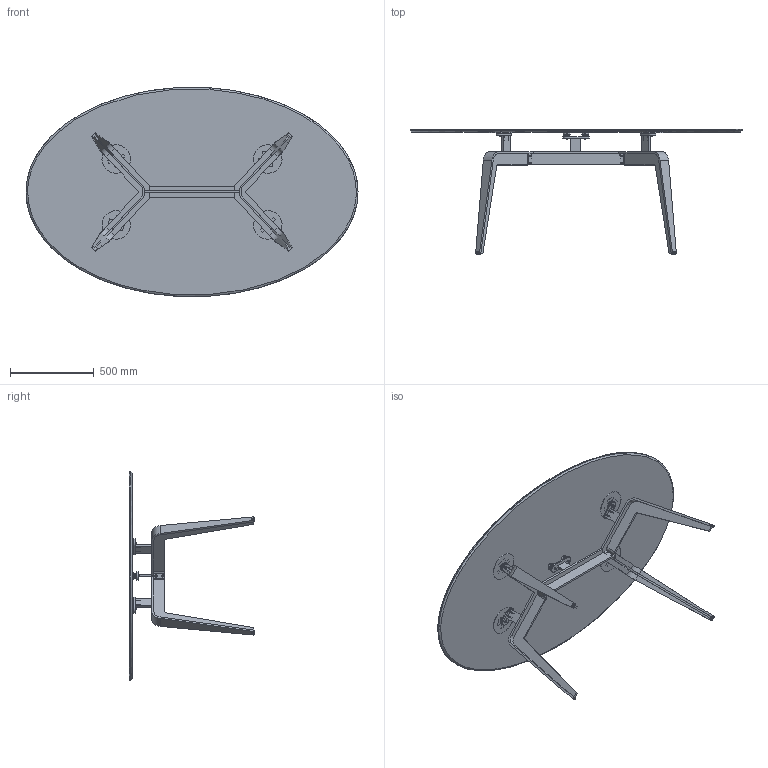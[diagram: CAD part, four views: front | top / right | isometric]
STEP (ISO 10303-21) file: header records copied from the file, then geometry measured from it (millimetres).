
FILE_DESCRIPTION (( 'STEP AP203' ), '1' );
FILE_NAME ('Table Odessa ovale plateau grès L198x125.STEP', '2026-10-06T13:41:53', ( '' ), ( '' ), 'SwSTEP 2.0', 'SolidWorks 2023', '' );
FILE_SCHEMA (( 'CONFIG_CONTROL_DESIGN' ));
Length unit declared in the file: millimetre
Products named in the file (14): 0007aa0_050-Plateau oval 198 ep 10 grès- marbre; Table Odessa ovale plateau grès L198x125; 0003c34_010-Patin pietement LMV; 0008dd9; 0007aa8_005-Longeron table ovale version L200; 00078c3_010-Platine de plateau; 0007a92_010-Demi-Pietement table ronde ou ovale<Brut d''usinage>; Vis M6x16 TBHC Zinguée (81079230)_Zinguée; 000af63_010-Platine D170 M6; Rondelle 06x18 (81078854)_Zinguée; 0007b88_070 - Plateau oval 198 avec platines - gres marbre; Vis M6x20 TBHC Zinguée (81064950)_Zinguée; 0007caf_010-Rondelle à denture extérieure chevauchante AZ - DIN 6798 A - Acier ressort Zn 400 HBS; 0007a9f_005-Pietement table ovale L200
Assembly tree (54 placements, depth 3):
  Table Odessa ovale plateau grès L198x125
    0007a9f_005-Pietement table ovale L200
      0007a92_010-Demi-Pietement table ronde ou ovale<Brut d''usinage>  x2
      0003c34_010-Patin pietement LMV  x4
      0007aa8_005-Longeron table ovale version L200
      Vis M6x20 TBHC Zinguée (81064950)_Zinguée  x14
      0007caf_010-Rondelle à denture extérieure chevauchante AZ - DIN 6798 A - Acier ressort Zn 400 HBS  x14
      Vis M6x16 TBHC Zinguée (81079230)_Zinguée  x4
      Rondelle 06x18 (81078854)_Zinguée  x4
      0008dd9  x2
    0007b88_070 - Plateau oval 198 avec platines - gres marbre
      0007aa0_050-Plateau oval 198 ep 10 grès- marbre
      00078c3_010-Platine de plateau  x2
      000af63_010-Platine D170 M6  x4
Bounding box: 1980 x 747.38 x 1247.6 mm (x, y, z)
Volume: 37981184.2 mm3; surface area: 5438998.4 mm2
Topology: 69 solids, 69 shells, 4308 faces, 9849 edges, 5702 vertices
Faces by surface type: cone 1658, cylinder 1543, plane 957, torus 140, bspline 10
Entity records: 34589 total; most frequent: CARTESIAN_POINT 10281, DIRECTION 4870, ORIENTED_EDGE 4370, EDGE_CURVE 2185, AXIS2_PLACEMENT_3D 1888, VERTEX_POINT 1324, LINE 1094, VECTOR 1094
